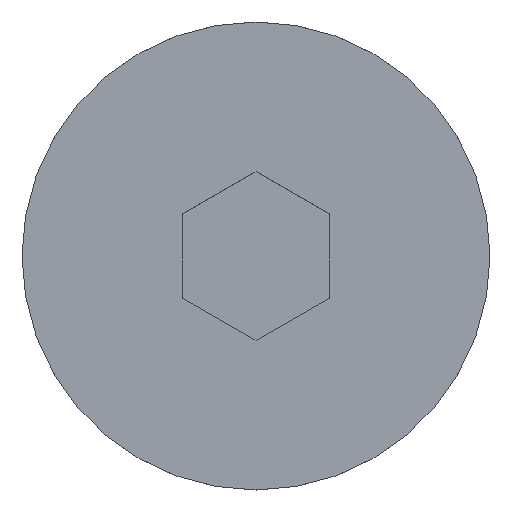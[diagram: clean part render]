
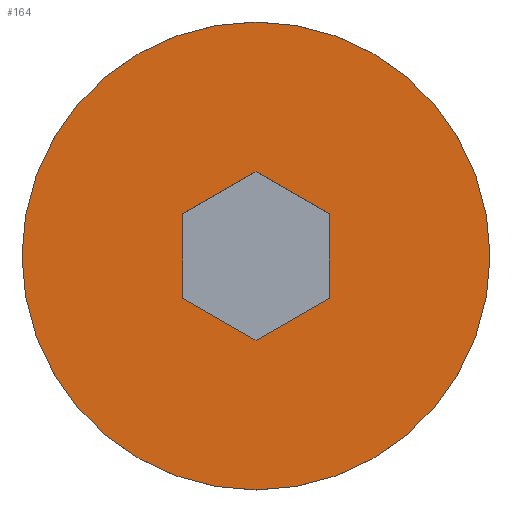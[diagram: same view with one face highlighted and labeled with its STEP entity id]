
A CAD part, top view. The second image highlights one B-rep face of the part: STEP entity #164.
In plain terms, the highlighted planar face has unit normal (0, 0, 1).
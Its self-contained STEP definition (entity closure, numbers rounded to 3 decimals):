
#5 = FACE_OUTER_BOUND ( 'NONE', #417, .T. ) ;
#10 = EDGE_CURVE ( 'NONE', #285, #390, #64, .T. ) ;
#11 = CARTESIAN_POINT ( 'NONE',  ( -3., -1.732, 5.22 ) ) ;
#18 = AXIS2_PLACEMENT_3D ( 'NONE', #252, #435, #53 ) ;
#20 = DIRECTION ( 'NONE',  ( 0.866, 0.5, 0. ) ) ;
#22 = CIRCLE ( 'NONE', #49, 9.61 ) ;
#23 = DIRECTION ( 'NONE',  ( 0., -1., 0. ) ) ;
#29 = DIRECTION ( 'NONE',  ( -1., 0., 0. ) ) ;
#36 = VECTOR ( 'NONE', #39, 1000. ) ;
#39 = DIRECTION ( 'NONE',  ( 0.866, -0.5, 0. ) ) ;
#43 = CARTESIAN_POINT ( 'NONE',  ( -9.61, 0., 5.22 ) ) ;
#47 = VERTEX_POINT ( 'NONE', #201 ) ;
#49 = AXIS2_PLACEMENT_3D ( 'NONE', #368, #296, #29 ) ;
#51 = CARTESIAN_POINT ( 'NONE',  ( 9.61, 0., 5.22 ) ) ;
#53 = DIRECTION ( 'NONE',  ( -1., 0., 0. ) ) ;
#64 = LINE ( 'NONE', #235, #423 ) ;
#73 = CARTESIAN_POINT ( 'NONE',  ( 0., -3.464, 5.22 ) ) ;
#87 = CARTESIAN_POINT ( 'NONE',  ( -3., 1.732, 5.22 ) ) ;
#96 = VECTOR ( 'NONE', #393, 1000. ) ;
#106 = ORIENTED_EDGE ( 'NONE', *, *, #198, .F. ) ;
#125 = EDGE_CURVE ( 'NONE', #354, #285, #439, .T. ) ;
#128 = ORIENTED_EDGE ( 'NONE', *, *, #284, .F. ) ;
#129 = EDGE_CURVE ( 'NONE', #47, #369, #179, .T. ) ;
#143 = ORIENTED_EDGE ( 'NONE', *, *, #129, .F. ) ;
#152 = EDGE_CURVE ( 'NONE', #369, #262, #215, .T. ) ;
#155 = CARTESIAN_POINT ( 'NONE',  ( -3., 1.732, 5.22 ) ) ;
#164 = ADVANCED_FACE ( 'NONE', ( #353, #5 ), #184, .T. ) ;
#167 = ORIENTED_EDGE ( 'NONE', *, *, #152, .F. ) ;
#170 = LINE ( 'NONE', #177, #96 ) ;
#177 = CARTESIAN_POINT ( 'NONE',  ( 3., -1.732, 5.22 ) ) ;
#178 = CARTESIAN_POINT ( 'NONE',  ( -9.61, 0., 5.22 ) ) ;
#179 = LINE ( 'NONE', #11, #36 ) ;
#184 = PLANE ( 'NONE',  #438 ) ;
#191 = CARTESIAN_POINT ( 'NONE',  ( 0., -3.464, 5.22 ) ) ;
#198 = EDGE_CURVE ( 'NONE', #262, #354, #170, .T. ) ;
#201 = CARTESIAN_POINT ( 'NONE',  ( -3., -1.732, 5.22 ) ) ;
#215 = LINE ( 'NONE', #73, #293 ) ;
#222 = VERTEX_POINT ( 'NONE', #178 ) ;
#235 = CARTESIAN_POINT ( 'NONE',  ( 0., 3.464, 5.22 ) ) ;
#252 = CARTESIAN_POINT ( 'NONE',  ( 0., 0., 5.22 ) ) ;
#258 = CARTESIAN_POINT ( 'NONE',  ( 0., 3.464, 5.22 ) ) ;
#262 = VERTEX_POINT ( 'NONE', #320 ) ;
#274 = DIRECTION ( 'NONE',  ( -0.866, 0.5, 0. ) ) ;
#284 = EDGE_CURVE ( 'NONE', #385, #222, #371, .T. ) ;
#285 = VERTEX_POINT ( 'NONE', #258 ) ;
#293 = VECTOR ( 'NONE', #20, 1000. ) ;
#296 = DIRECTION ( 'NONE',  ( 0., 0., -1. ) ) ;
#306 = DIRECTION ( 'NONE',  ( -0.866, -0.5, 0. ) ) ;
#320 = CARTESIAN_POINT ( 'NONE',  ( 3., -1.732, 5.22 ) ) ;
#344 = ORIENTED_EDGE ( 'NONE', *, *, #10, .F. ) ;
#349 = VECTOR ( 'NONE', #274, 1000. ) ;
#353 = FACE_BOUND ( 'NONE', #378, .T. ) ;
#354 = VERTEX_POINT ( 'NONE', #436 ) ;
#356 = DIRECTION ( 'NONE',  ( 1., 0., 0. ) ) ;
#368 = CARTESIAN_POINT ( 'NONE',  ( 0., 0., 5.22 ) ) ;
#369 = VERTEX_POINT ( 'NONE', #191 ) ;
#371 = CIRCLE ( 'NONE', #18, 9.61 ) ;
#378 = EDGE_LOOP ( 'NONE', ( #434, #106, #167, #143, #447, #344 ) ) ;
#379 = EDGE_CURVE ( 'NONE', #390, #47, #445, .T. ) ;
#385 = VERTEX_POINT ( 'NONE', #51 ) ;
#390 = VERTEX_POINT ( 'NONE', #87 ) ;
#393 = DIRECTION ( 'NONE',  ( 0., 1., 0. ) ) ;
#401 = ORIENTED_EDGE ( 'NONE', *, *, #425, .F. ) ;
#416 = VECTOR ( 'NONE', #23, 1000. ) ;
#417 = EDGE_LOOP ( 'NONE', ( #401, #128 ) ) ;
#418 = CARTESIAN_POINT ( 'NONE',  ( 3., 1.732, 5.22 ) ) ;
#423 = VECTOR ( 'NONE', #306, 1000. ) ;
#425 = EDGE_CURVE ( 'NONE', #222, #385, #22, .T. ) ;
#426 = DIRECTION ( 'NONE',  ( 0., 0., 1. ) ) ;
#434 = ORIENTED_EDGE ( 'NONE', *, *, #125, .F. ) ;
#435 = DIRECTION ( 'NONE',  ( 0., 0., -1. ) ) ;
#436 = CARTESIAN_POINT ( 'NONE',  ( 3., 1.732, 5.22 ) ) ;
#438 = AXIS2_PLACEMENT_3D ( 'NONE', #43, #426, #356 ) ;
#439 = LINE ( 'NONE', #418, #349 ) ;
#445 = LINE ( 'NONE', #155, #416 ) ;
#447 = ORIENTED_EDGE ( 'NONE', *, *, #379, .F. ) ;
